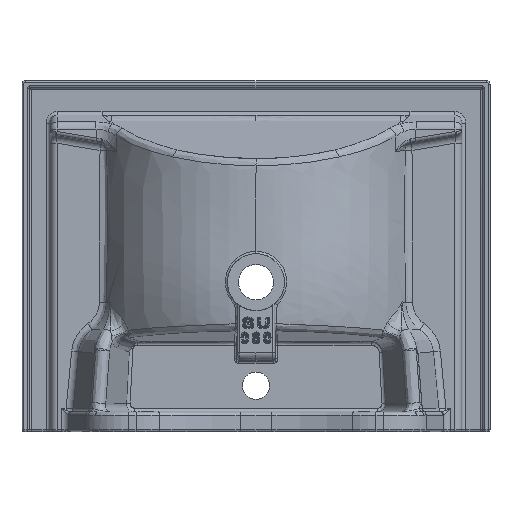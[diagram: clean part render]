
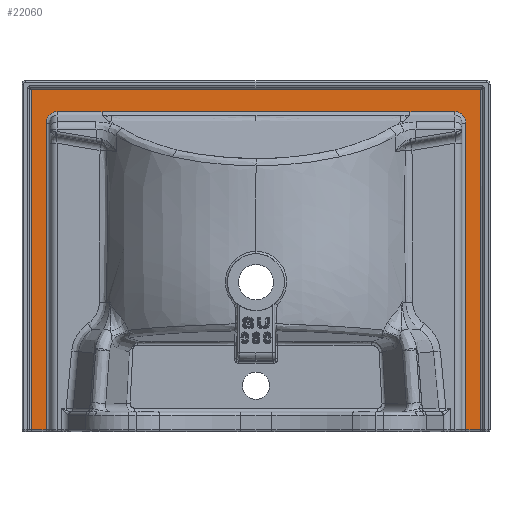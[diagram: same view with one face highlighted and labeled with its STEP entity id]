
A CAD part, front view. The second image highlights one B-rep face of the part: STEP entity #22060.
In plain terms, the highlighted planar face has unit normal (0, -1, 0).
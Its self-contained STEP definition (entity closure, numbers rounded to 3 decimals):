
#402 = VERTEX_POINT ( 'NONE', #59444 ) ;
#1307 = ORIENTED_EDGE ( 'NONE', *, *, #28430, .T. ) ;
#2732 = ORIENTED_EDGE ( 'NONE', *, *, #45974, .T. ) ;
#4937 = VERTEX_POINT ( 'NONE', #10235 ) ;
#5093 = AXIS2_PLACEMENT_3D ( 'NONE', #28363, #19251, #53662 ) ;
#5168 = LINE ( 'NONE', #44405, #32001 ) ;
#5440 = VERTEX_POINT ( 'NONE', #40729 ) ;
#6636 = CARTESIAN_POINT ( 'NONE',  ( -147.427, -11., 185.237 ) ) ;
#7035 = ORIENTED_EDGE ( 'NONE', *, *, #10564, .T. ) ;
#7046 = DIRECTION ( 'NONE',  ( 0., 0., -1. ) ) ;
#7595 = CARTESIAN_POINT ( 'NONE',  ( -187.427, -11., 185.237 ) ) ;
#8415 = LINE ( 'NONE', #14224, #40530 ) ;
#8581 = PLANE ( 'NONE',  #5093 ) ;
#9016 = CARTESIAN_POINT ( 'NONE',  ( 255., -11., 185.237 ) ) ;
#10235 = CARTESIAN_POINT ( 'NONE',  ( -269., -11., -223. ) ) ;
#10280 = EDGE_CURVE ( 'NONE', #43323, #14429, #36799, .T. ) ;
#10529 =( BOUNDED_CURVE ( )  B_SPLINE_CURVE ( 3, ( #9016, #28808, #43731, #29439 ),
 .UNSPECIFIED., .F., .F. ) 
 B_SPLINE_CURVE_WITH_KNOTS ( ( 4, 4 ),
 ( 0., 1.571 ),
 .UNSPECIFIED. ) 
 CURVE ( )  GEOMETRIC_REPRESENTATION_ITEM ( )  RATIONAL_B_SPLINE_CURVE ( ( 1., 0.805, 0.805, 1. ) ) 
 REPRESENTATION_ITEM ( '' )  );
#10564 = EDGE_CURVE ( 'NONE', #36702, #43323, #13065, .T. ) ;
#11351 = CARTESIAN_POINT ( 'NONE',  ( 288., -11., 215. ) ) ;
#11607 = EDGE_CURVE ( 'NONE', #63583, #50207, #46295, .T. ) ;
#13065 =( BOUNDED_CURVE ( )  B_SPLINE_CURVE ( 3, ( #28247, #37986, #42540, #27933 ),
 .UNSPECIFIED., .F., .F. ) 
 B_SPLINE_CURVE_WITH_KNOTS ( ( 4, 4 ),
 ( 4.712, 6.283 ),
 .UNSPECIFIED. ) 
 CURVE ( )  GEOMETRIC_REPRESENTATION_ITEM ( )  RATIONAL_B_SPLINE_CURVE ( ( 1., 0.805, 0.805, 1. ) ) 
 REPRESENTATION_ITEM ( '' )  );
#14224 = CARTESIAN_POINT ( 'NONE',  ( 0., -11., -223. ) ) ;
#14429 = VERTEX_POINT ( 'NONE', #31736 ) ;
#14542 = DIRECTION ( 'NONE',  ( 1., 0., 0. ) ) ;
#15191 = B_SPLINE_CURVE_WITH_KNOTS ( 'NONE', 3,
 ( #51727, #26741, #32246, #7595, #47172, #42298, #6636, #46210, #16674, #21209, #36792, #26095, #41334 ),
 .UNSPECIFIED., .F., .F.,
 ( 4, 3, 3, 3, 4 ),
 ( 0., 0.01, 0.05, 0.21, 0.395 ),
 .UNSPECIFIED. ) ;
#16305 = VECTOR ( 'NONE', #21148, 1000. ) ;
#16674 = CARTESIAN_POINT ( 'NONE',  ( -40.76, -11., 185.237 ) ) ;
#16881 = CARTESIAN_POINT ( 'NONE',  ( 0., -11., -223. ) ) ;
#17316 = VERTEX_POINT ( 'NONE', #43083 ) ;
#17457 = VECTOR ( 'NONE', #7046, 1000. ) ;
#18974 = VERTEX_POINT ( 'NONE', #36258 ) ;
#19251 = DIRECTION ( 'NONE',  ( 0., 1., 0. ) ) ;
#19282 = ORIENTED_EDGE ( 'NONE', *, *, #60735, .T. ) ;
#20055 = DIRECTION ( 'NONE',  ( 0., 0., -1. ) ) ;
#20922 = EDGE_CURVE ( 'NONE', #36702, #4937, #5168, .T. ) ;
#21148 = DIRECTION ( 'NONE',  ( 0., 0., -1. ) ) ;
#21209 = CARTESIAN_POINT ( 'NONE',  ( 12.573, -11., 185.237 ) ) ;
#22060 = ADVANCED_FACE ( 'NONE', ( #57897 ), #8581, .F. ) ;
#22604 = CARTESIAN_POINT ( 'NONE',  ( -288., -11., 213. ) ) ;
#25952 = DIRECTION ( 'NONE',  ( 0., 0., 1. ) ) ;
#25997 = ORIENTED_EDGE ( 'NONE', *, *, #52283, .T. ) ;
#26095 = CARTESIAN_POINT ( 'NONE',  ( 135.809, -11., 185.237 ) ) ;
#26245 = ORIENTED_EDGE ( 'NONE', *, *, #43668, .T. ) ;
#26741 = CARTESIAN_POINT ( 'NONE',  ( -194.094, -11., 185.237 ) ) ;
#27933 = CARTESIAN_POINT ( 'NONE',  ( -255., -11., 185.237 ) ) ;
#28016 = VECTOR ( 'NONE', #55725, 1000. ) ;
#28247 = CARTESIAN_POINT ( 'NONE',  ( -269., -11., 169.818 ) ) ;
#28363 = CARTESIAN_POINT ( 'NONE',  ( 0., -11., 0. ) ) ;
#28430 = EDGE_CURVE ( 'NONE', #402, #5440, #36261, .T. ) ;
#28562 = ORIENTED_EDGE ( 'NONE', *, *, #11607, .T. ) ;
#28808 = CARTESIAN_POINT ( 'NONE',  ( 263.201, -11., 185.237 ) ) ;
#29439 = CARTESIAN_POINT ( 'NONE',  ( 269., -11., 169.818 ) ) ;
#30418 = DIRECTION ( 'NONE',  ( -1., 0., 0. ) ) ;
#31497 = DIRECTION ( 'NONE',  ( 1., 0., 0. ) ) ;
#31736 = CARTESIAN_POINT ( 'NONE',  ( -197.427, -11., 185.237 ) ) ;
#31817 = EDGE_CURVE ( 'NONE', #40560, #18974, #8415, .T. ) ;
#32001 = VECTOR ( 'NONE', #20055, 1000. ) ;
#32246 = CARTESIAN_POINT ( 'NONE',  ( -190.76, -11., 185.237 ) ) ;
#36258 = CARTESIAN_POINT ( 'NONE',  ( 288., -11., -223. ) ) ;
#36261 = LINE ( 'NONE', #61232, #28016 ) ;
#36299 = EDGE_LOOP ( 'NONE', ( #28562, #2732, #63804, #7035, #47800, #53856, #1307, #19282, #25997, #41079, #50130, #26245 ) ) ;
#36702 = VERTEX_POINT ( 'NONE', #50557 ) ;
#36792 = CARTESIAN_POINT ( 'NONE',  ( 74.191, -11., 185.237 ) ) ;
#36799 = LINE ( 'NONE', #55071, #63023 ) ;
#37986 = CARTESIAN_POINT ( 'NONE',  ( -269., -11., 178.85 ) ) ;
#38063 = CARTESIAN_POINT ( 'NONE',  ( -288., -11., -223. ) ) ;
#40137 = VECTOR ( 'NONE', #25952, 1000. ) ;
#40530 = VECTOR ( 'NONE', #14542, 1000. ) ;
#40560 = VERTEX_POINT ( 'NONE', #59500 ) ;
#40729 = CARTESIAN_POINT ( 'NONE',  ( 255., -11., 185.237 ) ) ;
#41079 = ORIENTED_EDGE ( 'NONE', *, *, #31817, .T. ) ;
#41334 = CARTESIAN_POINT ( 'NONE',  ( 197.427, -11., 185.237 ) ) ;
#42298 = CARTESIAN_POINT ( 'NONE',  ( -160.76, -11., 185.237 ) ) ;
#42540 = CARTESIAN_POINT ( 'NONE',  ( -263.201, -11., 185.237 ) ) ;
#42993 = VERTEX_POINT ( 'NONE', #60345 ) ;
#43083 = CARTESIAN_POINT ( 'NONE',  ( 288., -11., 213. ) ) ;
#43323 = VERTEX_POINT ( 'NONE', #57377 ) ;
#43668 = EDGE_CURVE ( 'NONE', #17316, #63583, #44044, .T. ) ;
#43731 = CARTESIAN_POINT ( 'NONE',  ( 269., -11., 178.85 ) ) ;
#44044 = LINE ( 'NONE', #55393, #44095 ) ;
#44095 = VECTOR ( 'NONE', #30418, 1000. ) ;
#44405 = CARTESIAN_POINT ( 'NONE',  ( -269., -11., -225. ) ) ;
#44543 = CARTESIAN_POINT ( 'NONE',  ( 269., -11., -225. ) ) ;
#45974 = EDGE_CURVE ( 'NONE', #50207, #4937, #61977, .T. ) ;
#46210 = CARTESIAN_POINT ( 'NONE',  ( -94.094, -11., 185.237 ) ) ;
#46295 = LINE ( 'NONE', #51819, #17457 ) ;
#46864 = DIRECTION ( 'NONE',  ( 1., 0., 0. ) ) ;
#47172 = CARTESIAN_POINT ( 'NONE',  ( -174.094, -11., 185.237 ) ) ;
#47800 = ORIENTED_EDGE ( 'NONE', *, *, #10280, .T. ) ;
#50004 = EDGE_CURVE ( 'NONE', #14429, #402, #15191, .T. ) ;
#50130 = ORIENTED_EDGE ( 'NONE', *, *, #51846, .T. ) ;
#50207 = VERTEX_POINT ( 'NONE', #38063 ) ;
#50557 = CARTESIAN_POINT ( 'NONE',  ( -269., -11., 169.818 ) ) ;
#50939 = LINE ( 'NONE', #11351, #40137 ) ;
#51727 = CARTESIAN_POINT ( 'NONE',  ( -197.427, -11., 185.237 ) ) ;
#51819 = CARTESIAN_POINT ( 'NONE',  ( -288., -11., -225. ) ) ;
#51846 = EDGE_CURVE ( 'NONE', #18974, #17316, #50939, .T. ) ;
#52283 = EDGE_CURVE ( 'NONE', #42993, #40560, #60423, .T. ) ;
#53662 = DIRECTION ( 'NONE',  ( 0., 0., 1. ) ) ;
#53856 = ORIENTED_EDGE ( 'NONE', *, *, #50004, .T. ) ;
#55071 = CARTESIAN_POINT ( 'NONE',  ( 0., -11., 185.237 ) ) ;
#55393 = CARTESIAN_POINT ( 'NONE',  ( -290., -11., 213. ) ) ;
#55725 = DIRECTION ( 'NONE',  ( 1., 0., 0. ) ) ;
#57377 = CARTESIAN_POINT ( 'NONE',  ( -255., -11., 185.237 ) ) ;
#57897 = FACE_OUTER_BOUND ( 'NONE', #36299, .T. ) ;
#59444 = CARTESIAN_POINT ( 'NONE',  ( 197.427, -11., 185.237 ) ) ;
#59500 = CARTESIAN_POINT ( 'NONE',  ( 269., -11., -223. ) ) ;
#60345 = CARTESIAN_POINT ( 'NONE',  ( 269., -11., 169.818 ) ) ;
#60423 = LINE ( 'NONE', #44543, #16305 ) ;
#60732 = VECTOR ( 'NONE', #31497, 1000. ) ;
#60735 = EDGE_CURVE ( 'NONE', #5440, #42993, #10529, .T. ) ;
#61232 = CARTESIAN_POINT ( 'NONE',  ( 0., -11., 185.237 ) ) ;
#61977 = LINE ( 'NONE', #16881, #60732 ) ;
#63023 = VECTOR ( 'NONE', #46864, 1000. ) ;
#63583 = VERTEX_POINT ( 'NONE', #22604 ) ;
#63804 = ORIENTED_EDGE ( 'NONE', *, *, #20922, .F. ) ;
